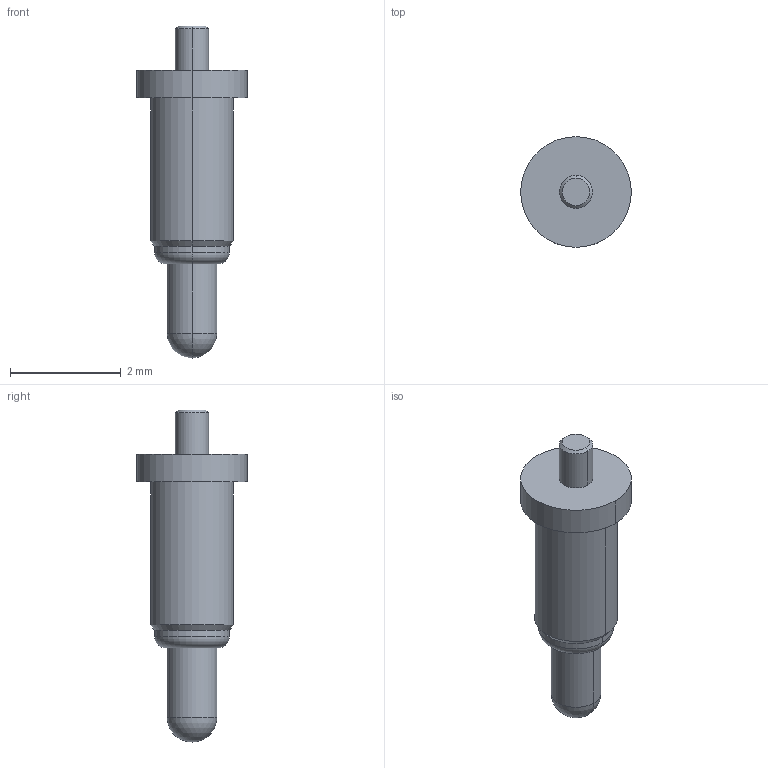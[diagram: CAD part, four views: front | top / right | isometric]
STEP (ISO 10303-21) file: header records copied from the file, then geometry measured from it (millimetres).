
FILE_DESCRIPTION((''),'2;1');
FILE_NAME('PRT0022','2023-05-26T11:33:01',('USER'),(''),'CREO PARAMETRIC BY PTC INC, 2020154','CREO PARAMETRIC BY PTC INC, 2020154','');
FILE_SCHEMA(('CONFIG_CONTROL_DESIGN'));
Length unit declared in the file: millimetre
Products named in the file (1): PRT0022
Bounding box: 2 x 2 x 6 mm (x, y, z)
Volume: 7.9 mm3; surface area: 28.4 mm2
Topology: 1 solids, 1 shells, 22 faces, 44 edges, 25 vertices
Faces by surface type: cylinder 10, plane 4, cone 4, torus 2, sphere 2
Entity records: 600 total; most frequent: DIRECTION 114, CARTESIAN_POINT 89, ORIENTED_EDGE 84, AXIS2_PLACEMENT_3D 50, EDGE_CURVE 42, CIRCLE 28, VERTEX_POINT 25, EDGE_LOOP 25
